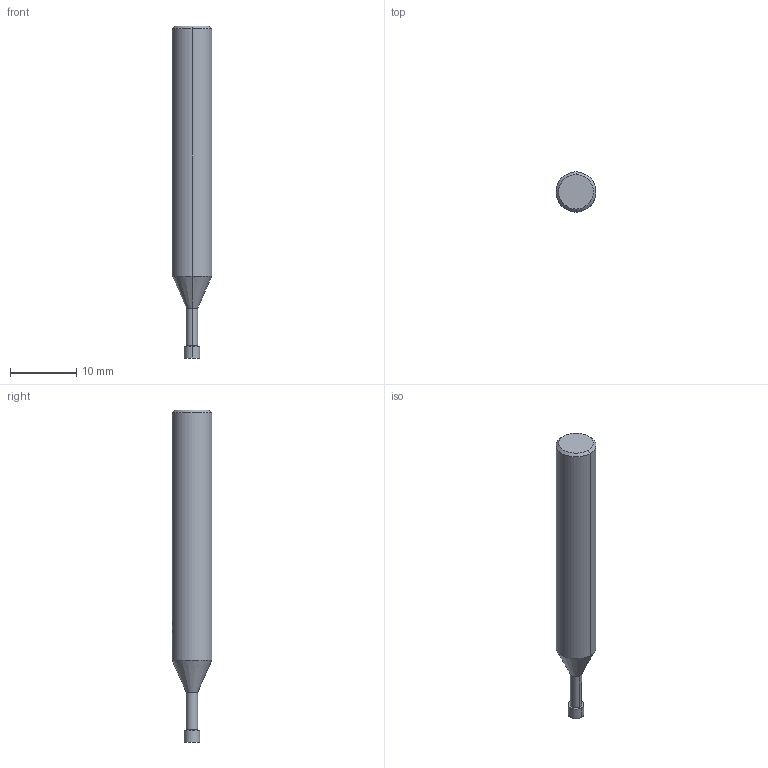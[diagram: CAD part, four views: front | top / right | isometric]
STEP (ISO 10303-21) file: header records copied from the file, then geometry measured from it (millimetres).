
FILE_DESCRIPTION(('no description'),'unknown implementation level');
FILE_NAME('solidJyimb_4Ok_Zn0G9dKUaUeaSZnZw_1.STP',' ',('CIMSOURCE GmbH'),('CADClick - KiM GmbH - www.kimweb.de'),'unknown preprocess','ACIS','unknown authorization');
FILE_SCHEMA(('automotive_design'));
Length unit declared in the file: millimetre
Products named in the file (2): NOCUT; CUT
Bounding box: 6 x 6 x 50 mm (x, y, z)
Volume: 1147.1 mm3; surface area: 854.6 mm2
Topology: 2 solids, 2 shells, 30 faces, 69 edges, 44 vertices
Faces by surface type: cylinder 14, plane 10, cone 6
Entity records: 1910 total; most frequent: CARTESIAN_POINT 366, DIRECTION 153, STYLED_ITEM 145, PRESENTATION_STYLE_ASSIGNMENT 145, COLOUR_RGB 145, ORIENTED_EDGE 138, EDGE_CURVE 69, CURVE_STYLE 69
